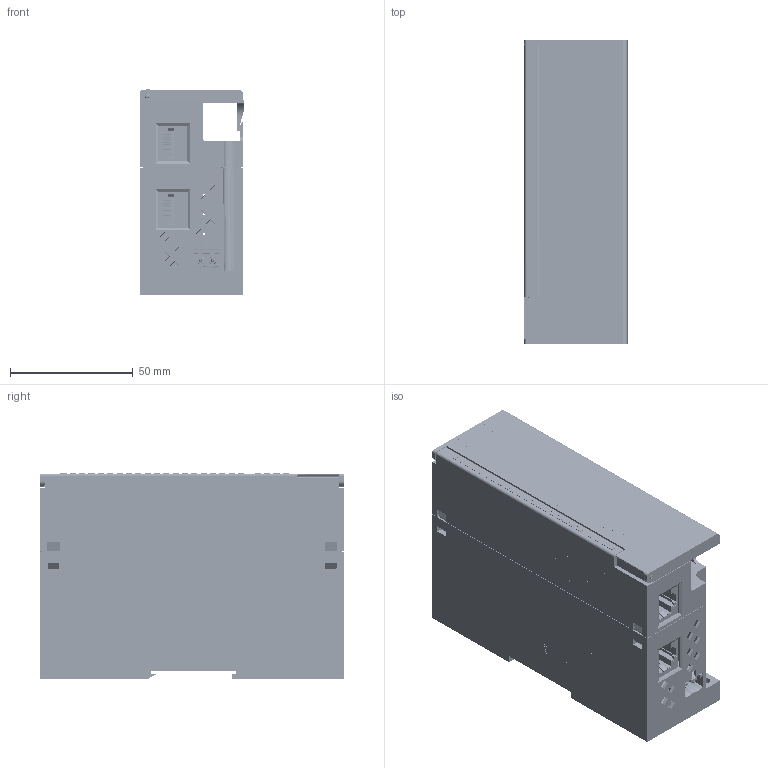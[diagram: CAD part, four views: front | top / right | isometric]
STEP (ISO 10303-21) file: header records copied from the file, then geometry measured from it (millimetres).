
FILE_DESCRIPTION(('STEP AP203'), '1');
FILE_NAME('MX210(171103)', '', ('UNSPECIFIED'), ('UNSPECIFIED'), 'ASCON STEP Converter 1.6', 'ASCON Math Kernel', '');
FILE_SCHEMA(('CONFIG_CONTROL_DESIGN'));
Length unit declared in the file: millimetre
Products named in the file (62): MX210(171103); svetovod_lv2v3_1; case_v2(151214)v3_1; PCB_assembly_main_v3.2_1.27_mainoneboardv2v3; MSTBA_5mm_3pin_3v2v3; +燶X2\043804010404\X0\穃X2\0401\X0\-vажΔк癨X2\0438\X0\X2\04572116\X0\X2\2022\X0\ вЁ琝X2\043A\X0\癬3v2v3; Tї燶X2\0457\X0\琝X2\043A\X0\Ψ_Ё燶X2\044C044E0449\X0\v2v3; pl2v3_1; 12DI-8DOR; HL13; LED_0603_R; User_Library-LED_0603_R_Pocket002; User_Library-LED_0603_R_Pad004; User_Library-LED_0603_R_Fillet; User_Library-LED_0603_R_Pocket001; User_Library-LED_0603_R_Pad; XP2; PLS-2R; HL14; XT1; ｷvї№№､ｰｷ24MXv3; T-vмшv3; Lepestok_Short2lvl_1; Lepestok_Shortlvl1_1_1; +ьфцъшф-мv3; Ўцтм愧X2\043C0448\X0\v3; Vint_1v3; Lepestok2_1v3; shayba_1v3; +ш-мш_Ў3_++TT_5915-70v3; Ўцтм·мш_BaseOfConnectorBottomPart(24)v3; HL15; HL16; Board; HL17; XS2; 629105136821; Insulator; Pin; Shielding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
Assembly tree (196 placements, depth 7):
  MX210(171103)
    svetovod_lv2v3_1
    case_v2(151214)v3_1
    PCB_assembly_main_v3.2_1.27_mainoneboardv2v3
      MSTBA_5mm_3pin_3v2v3
        +燶X2\043804010404\X0\穃X2\0401\X0\-vажΔк癨X2\0438\X0\X2\04572116\X0\X2\2022\X0\ вЁ琝X2\043A\X0\癬3v2v3
        Tї燶X2\0457\X0\琝X2\043A\X0\Ψ_Ё燶X2\044C044E0449\X0\v2v3  x2
      pl2v3_1
      12DI-8DOR
        HL13
          LED_0603_R
            User_Library-LED_0603_R_Pocket002
            User_Library-LED_0603_R_Pad004
            User_Library-LED_0603_R_Fillet
            User_Library-LED_0603_R_Pocket001
            User_Library-LED_0603_R_Pad
        XP2
          PLS-2R
        HL14
          LED_0603_R
            User_Library-LED_0603_R_Pocket002
            User_Library-LED_0603_R_Pad004
            User_Library-LED_0603_R_Fillet
            User_Library-LED_0603_R_Pocket001
            User_Library-LED_0603_R_Pad
        XT1
          ｷvї№№､ｰｷ24MXv3
            T-vмшv3
              Lepestok_Short2lvl_1  x12
              Lepestok_Shortlvl1_1_1  x12
              +ьфцъшф-мv3
            Ўцтм愧X2\043C0448\X0\v3
              Vint_1v3  x24
              Lepestok2_1v3  x24
              shayba_1v3  x24
              +ш-мш_Ў3_++TT_5915-70v3  x24
              Ўцтм·мш_BaseOfConnectorBottomPart(24)v3
        HL15
          LED_0603_R
            User_Library-LED_0603_R_Pocket002
            User_Library-LED_0603_R_Pad004
            User_Library-LED_0603_R_Fillet
            User_Library-LED_0603_R_Pocket001
            User_Library-LED_0603_R_Pad
        HL16
          LED_0603_R
            User_Library-LED_0603_R_Pocket002
            User_Library-LED_0603_R_Pad004
            User_Library-LED_0603_R_Fillet
            User_Library-LED_0603_R_Pocket001
            User_Library-LED_0603_R_Pad
        Board
        HL17
          LED_0603_R
            User_Library-LED_0603_R_Pocket002
            User_Library-LED_0603_R_Pad004
            User_Library-LED_0603_R_Fillet
            User_Library-LED_0603_R_Pocket001
            User_Library-LED_0603_R_Pad
        XS2
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Bounding box: 42.15 x 124.15 x 83.6 mm (x, y, z)
Volume: 94086.7 mm3; surface area: 183629 mm2
Topology: 228 solids, 245 shells, 28399 faces, 80230 edges, 53050 vertices
Faces by surface type: plane 25387, cylinder 2212, bspline 516, cone 264, torus 10, extrusion 6, sphere 4
Full cylindrical faces by diameter (mm): 0.08 x16, 0.6 x2, 0.8 x2, 0.9 x16, 1 x7, 1.05 x2, 1.6 x24, 1.605 x24, 1.7 x4, 2 x2, 2.1 x2, 2.459 x24, 2.5 x2, 2.86 x2, 2.9 x2, 3 x24, 3.2 x26, 3.25 x4, 3.4 x24, 3.5 x3, 4 x2, 4.5 x2
Entity records: 906148 total; most frequent: CARTESIAN_POINT 138767, ORIENTED_EDGE 126989, DIRECTION 109257, EDGE_CURVE 63502, VECTOR 61193, LINE 61187, VERTEX_POINT 42174, AXIS2_PLACEMENT_3D 24032
